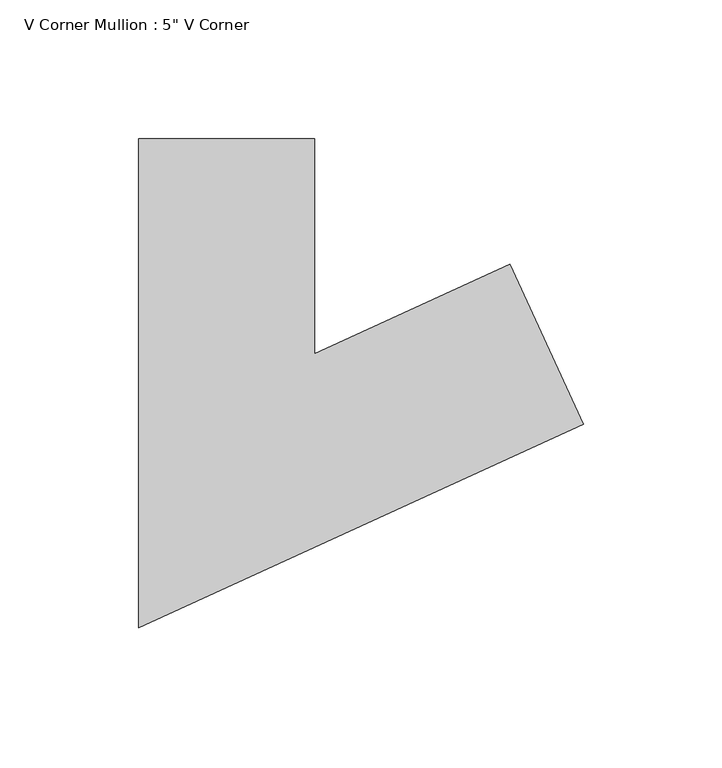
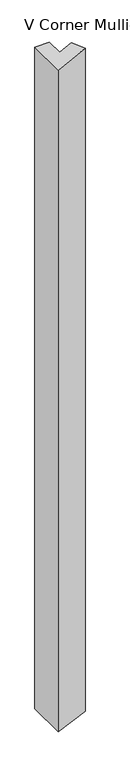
"""IFC4 building model written with IfcOpenShell, lengths in millimetres: member geometry."""

from ifc_helpers import new_model, si_unit, origin, place, context, project, spatial, faceted_brep, source, transform, mapped, element, save


def member_2db08f33(model_context):
    return source(origin(), model_context, "Body", "Brep", [
        faceted_brep([(87.9205542, -39.5195451, 0.0), (61.49523, 18.2208415, 0.0), (-9.0228811, -14.0523047, 0.0), (-9.0228811, 63.5, 0.0), (-72.5228811, 63.5, 0.0), (-72.5228811, -112.9476953, 0.0), (87.9205542, -39.5195451, -3074.916499), (61.49523, 18.2208415, -3073.9276481), (-9.0228811, -14.0523047, -3071.2888198), (-9.0228811, 63.5, -3071.2888198), (-72.5228811, 63.5, -3068.9126132), (-72.5228811, -112.9476953, -3068.9126132)], [[[0, 1, 2, 3, 4, 5]], [[1, 0, 6, 7]], [[2, 1, 7, 8]], [[3, 2, 8, 9]], [[4, 3, 9, 10]], [[5, 4, 10, 11]], [[0, 5, 11, 6]], [[6, 11, 10, 9, 8, 7]]]),
    ])


if __name__ == "__main__":
    model = new_model("IFC4")
    model_context = context("Model", 3, world=origin())
    ifc_project = project(units=[si_unit("LENGTHUNIT", "METRE", prefix="MILLI")], contexts=[model_context])
    site = spatial("IfcSite", under=ifc_project)
    building = spatial("IfcBuilding", under=site)
    placement = place(None, origin())
    member_shape = member_2db08f33(model_context)
    element("IfcMember", 1, ObjectType="V Corner Mullion : 5\" V Corner", at=placement, inside=building, context=model_context, shape_type="MappedRepresentation", body=[
        mapped(member_shape, transform((0.0, 0.0, 0.0), x_axis=(1.0, 0.0, 0.0), y_axis=(0.0, 1.0, 0.0), z_axis=(0.0, 0.0, 1.0))),
    ])
    save(model, "model.ifc")
